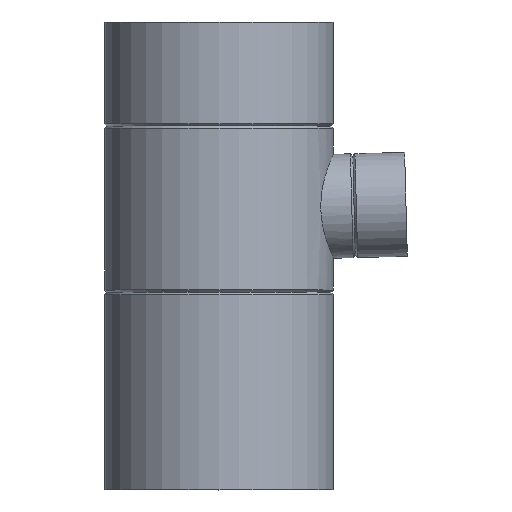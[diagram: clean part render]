
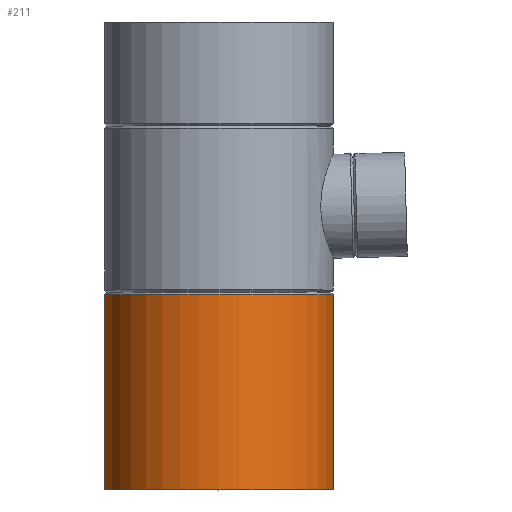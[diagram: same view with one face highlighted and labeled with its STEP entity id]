
A CAD part, top view. The second image highlights one B-rep face of the part: STEP entity #211.
In plain terms, the highlighted cylindrical face has radius 55 mm (diameter 110 mm), a full revolution.
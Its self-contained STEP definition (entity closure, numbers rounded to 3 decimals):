
#23=CYLINDRICAL_SURFACE($,#244,55.);
#41=FACE_BOUND($,#87,.T.);
#57=FACE_OUTER_BOUND($,#86,.T.);
#86=EDGE_LOOP($,(#169));
#87=EDGE_LOOP($,(#170));
#100=CIRCLE($,#232,55.);
#106=CIRCLE($,#245,55.);
#116=VERTEX_POINT($,#403);
#123=VERTEX_POINT($,#489);
#133=EDGE_CURVE($,#116,#116,#100,.T.);
#140=EDGE_CURVE($,#123,#123,#106,.T.);
#169=ORIENTED_EDGE($,*,*,#133,.T.);
#170=ORIENTED_EDGE($,*,*,#140,.F.);
#211=ADVANCED_FACE($,(#57,#41),#23,.T.);
#232=AXIS2_PLACEMENT_3D($,#404,#280,#281);
#244=AXIS2_PLACEMENT_3D($,#488,#304,#305);
#245=AXIS2_PLACEMENT_3D($,#490,#306,#307);
#280=DIRECTION('center_axis',(0.,-1.,0.));
#281=DIRECTION('ref_axis',(1.,0.,0.));
#304=DIRECTION('center_axis',(0.,1.,0.));
#305=DIRECTION('ref_axis',(1.,0.,0.));
#306=DIRECTION('center_axis',(0.,-1.,0.));
#307=DIRECTION('ref_axis',(1.,0.,0.));
#403=CARTESIAN_POINT('',(-55.,93.9,0.));
#404=CARTESIAN_POINT('Origin',(0.,93.9,0.));
#488=CARTESIAN_POINT('Origin',(0.,0.,0.));
#489=CARTESIAN_POINT('',(-55.,0.,0.));
#490=CARTESIAN_POINT('Origin',(0.,0.,0.));
